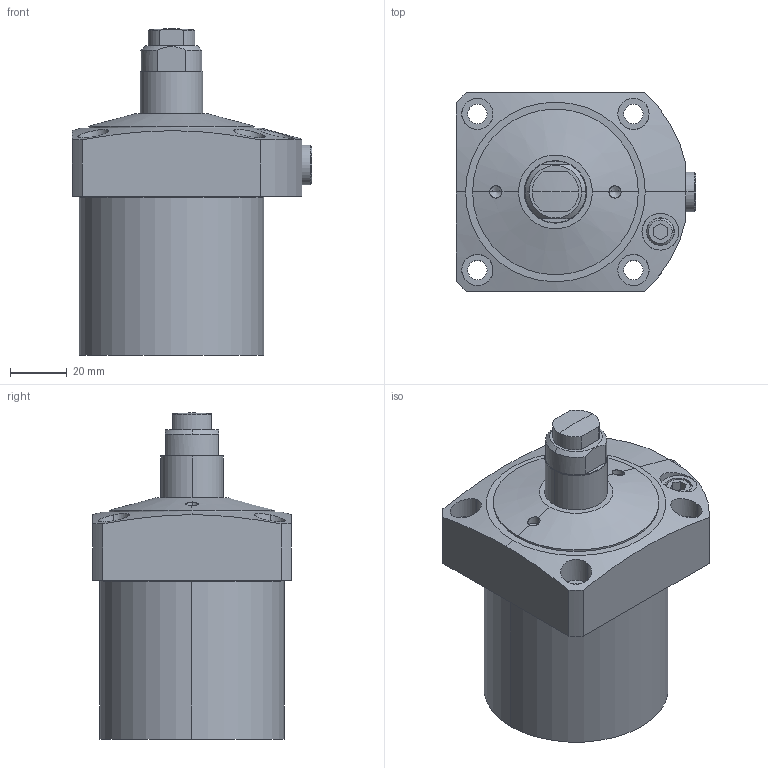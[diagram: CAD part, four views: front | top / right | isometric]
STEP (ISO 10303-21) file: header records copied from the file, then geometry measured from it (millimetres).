
FILE_DESCRIPTION(/* description */ (''),/* implementation_level */ '2;1');
FILE_NAME(/* name */ 'KFSS65.stp',/* time_stamp */ '2022-11-17T07:42:36+08:00',/* author */ (''),/* organization */ (''),/* preprocessor_version */ 'ST-DEVELOPER v16.7',/* originating_system */ 'SIEMENS PLM Software NX 12.0',/* authorisation */ '');
FILE_SCHEMA (('AP203_CONFIGURATION_CONTROLLED_3D_DESIGN_OF_MECHANICAL_PARTS_AND_ASSEMBLIES_MIM_LF { 1 0 10303 403 2 1 2}'));
Length unit declared in the file: millimetre
Products named in the file (5): KFSS65-01; KFSS65-03; KFSS65-02; KFSS65-04; LC0652-Cx-E_step
Assembly tree (4 placements, depth 2):
  LC0652-Cx-E_step
    KFSS65-04
    KFSS65-02
    KFSS65-03
    KFSS65-01
Bounding box: 84.5 x 70 x 115 mm (x, y, z)
Volume: 323128.9 mm3; surface area: 34599.4 mm2
Topology: 4 solids, 4 shells, 117 faces, 264 edges, 167 vertices
Faces by surface type: cylinder 50, plane 43, cone 20, sphere 2, torus 2
Entity records: 4032 total; most frequent: CARTESIAN_POINT 791, DIRECTION 596, ORIENTED_EDGE 520, EDGE_CURVE 260, AXIS2_PLACEMENT_3D 236, VERTEX_POINT 167, EDGE_LOOP 141, LINE 124
